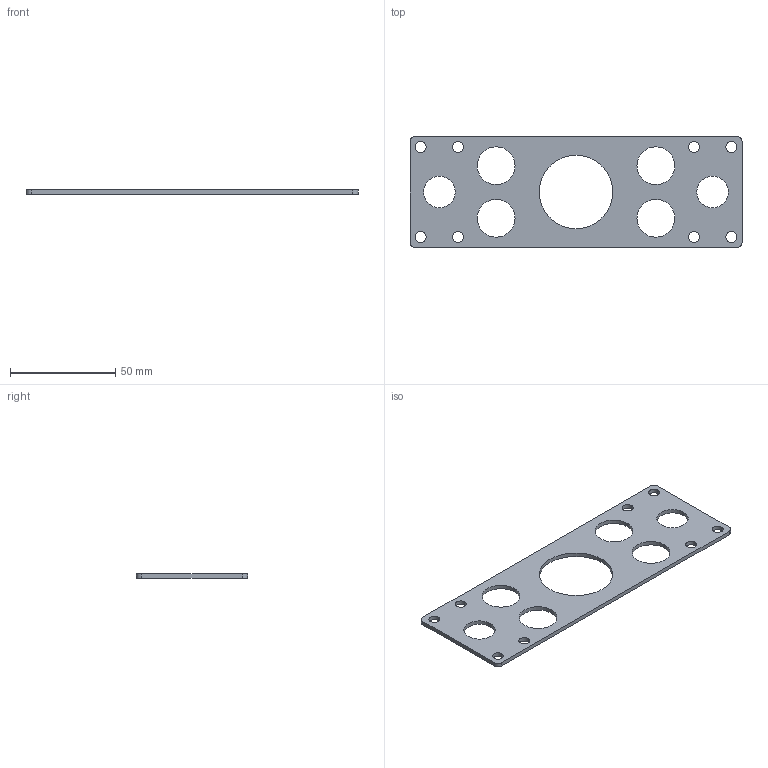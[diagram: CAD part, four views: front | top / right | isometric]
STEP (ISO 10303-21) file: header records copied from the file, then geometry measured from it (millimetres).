
FILE_DESCRIPTION (( 'STEP AP214' ), '1' );
FILE_NAME ('SMBD2-13050.STEP', '2019-10-31T07:27:27', ( '微软用户' ), ( '微软中国' ), 'SwSTEP 2.0', 'SolidWorks 2016', '' );
FILE_SCHEMA (( 'AUTOMOTIVE_DESIGN' ));
Length unit declared in the file: millimetre
Products named in the file (1): SMBD2-13050
Bounding box: 158 x 53 x 2 mm (x, y, z)
Volume: 11730.6 mm3; surface area: 13688.2 mm2
Topology: 1 solids, 1 shells, 40 faces, 114 edges, 76 vertices
Faces by surface type: cylinder 34, plane 6
Entity records: 1440 total; most frequent: DIRECTION 264, CARTESIAN_POINT 231, ORIENTED_EDGE 228, EDGE_CURVE 114, AXIS2_PLACEMENT_3D 109, VERTEX_POINT 76, EDGE_LOOP 70, CIRCLE 68
